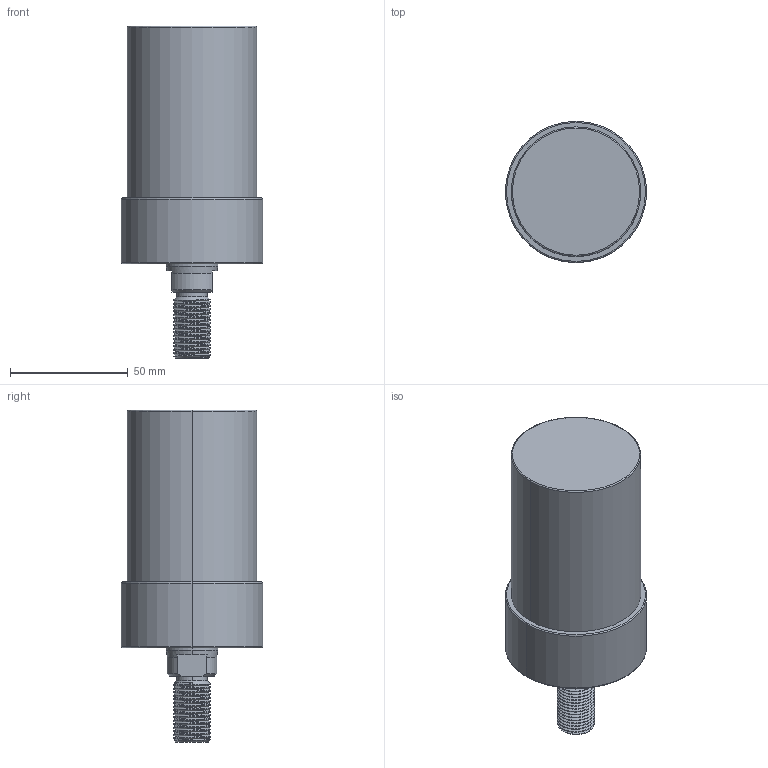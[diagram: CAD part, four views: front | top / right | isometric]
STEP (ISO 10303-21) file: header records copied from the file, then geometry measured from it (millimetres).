
FILE_DESCRIPTION (( 'STEP AP203' ), '1' );
FILE_NAME ('CLLU-055GT-060.STEP', '2020-01-16T00:52:38', ( '' ), ( '' ), 'SwSTEP 2.0', 'SolidWorks 2015', '' );
FILE_SCHEMA (( 'CONFIG_CONTROL_DESIGN' ));
Length unit declared in the file: millimetre
Products named in the file (1): CLLU-055GT-060
Bounding box: 60 x 60 x 141 mm (x, y, z)
Volume: 259905.5 mm3; surface area: 27576.3 mm2
Topology: 1 solids, 1 shells, 101 faces, 253 edges, 155 vertices
Faces by surface type: cylinder 55, cone 26, plane 12, torus 6, bspline 2
Entity records: 4866 total; most frequent: CARTESIAN_POINT 2596, ORIENTED_EDGE 490, DIRECTION 438, EDGE_CURVE 245, AXIS2_PLACEMENT_3D 176, VERTEX_POINT 155, EDGE_LOOP 110, FACE_OUTER_BOUND 101
